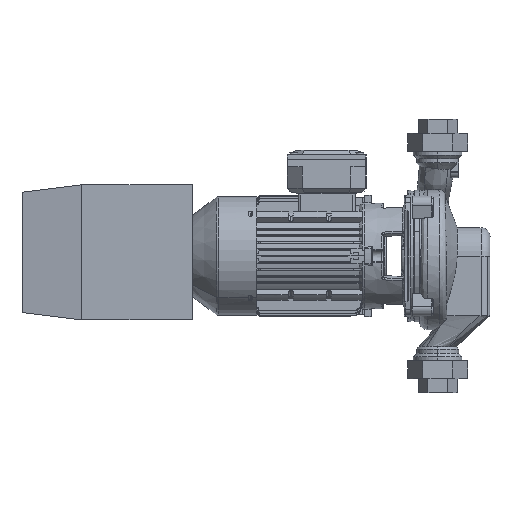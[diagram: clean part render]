
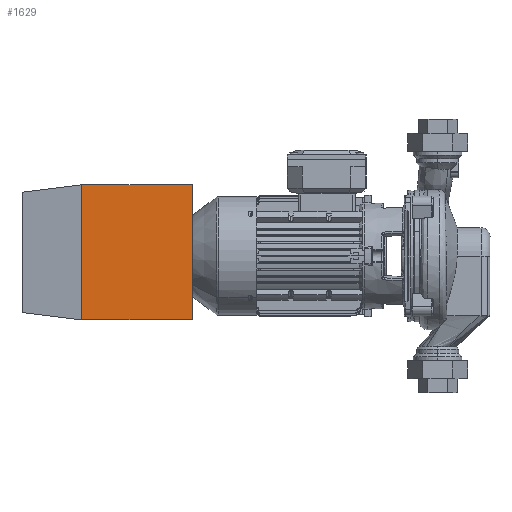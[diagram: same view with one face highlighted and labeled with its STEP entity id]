
A CAD part, left-side view. The second image highlights one B-rep face of the part: STEP entity #1629.
In plain terms, the highlighted planar face has unit normal (-1, 0, 0) as drawn and (0, 0, -1) by its records, which use the part's own axes.
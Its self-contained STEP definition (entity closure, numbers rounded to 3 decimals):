
#1629=ADVANCED_FACE('',(#2963),#2964,.F.);
#1645=EDGE_CURVE('',#2988,#2989,#2990,.T.);
#1647=EDGE_CURVE('',#2992,#2988,#2993,.T.);
#1649=EDGE_CURVE('',#2995,#2992,#2996,.T.);
#2963=FACE_OUTER_BOUND('',#8292,.T.);
#2964=PLANE('',#8293);
#2988=VERTEX_POINT('',#8322);
#2989=VERTEX_POINT('',#8323);
#2990=LINE('',#8324,#8325);
#2992=VERTEX_POINT('',#8328);
#2993=LINE('',#8329,#8330);
#2995=VERTEX_POINT('',#8333);
#2996=LINE('',#8334,#8335);
#8292=EDGE_LOOP('',(#14508,#14509,#14510,#14511));
#8293=AXIS2_PLACEMENT_3D('',#14512,#14513,#14514);
#8322=CARTESIAN_POINT('',(90.5,-114.0,0.0));
#8323=CARTESIAN_POINT('',(90.5,34.0,0.0));
#8324=CARTESIAN_POINT('',(90.5,-114.0,0.0));
#8325=VECTOR('',#14561,1.0);
#8328=CARTESIAN_POINT('',(-90.5,-114.0,0.0));
#8329=CARTESIAN_POINT('',(-90.5,-114.0,0.0));
#8330=VECTOR('',#14562,1.0);
#8333=CARTESIAN_POINT('',(-90.5,34.0,0.0));
#8334=CARTESIAN_POINT('',(-90.5,114.0,0.0));
#8335=VECTOR('',#14563,1.0);
#14508=ORIENTED_EDGE('',*,*,#23226,.F.);
#14509=ORIENTED_EDGE('',*,*,#1645,.F.);
#14510=ORIENTED_EDGE('',*,*,#1647,.F.);
#14511=ORIENTED_EDGE('',*,*,#1649,.F.);
#14512=CARTESIAN_POINT('',(90.5,-114.0,0.0));
#14513=DIRECTION('',(0.0,0.0,1.0));
#14514=DIRECTION('',(1.0,0.0,0.0));
#14561=DIRECTION('',(0.0,1.0,0.0));
#14562=DIRECTION('',(1.0,0.0,0.0));
#14563=DIRECTION('',(0.0,-1.0,0.0));
#23226=EDGE_CURVE('',#2989,#2995,#38434,.T.);
#38434=LINE('',#47309,#47310);
#47309=CARTESIAN_POINT('',(45.25,34.0,0.0));
#47310=VECTOR('',#55606,1.0);
#55606=DIRECTION('',(-1.0,0.0,0.0));
